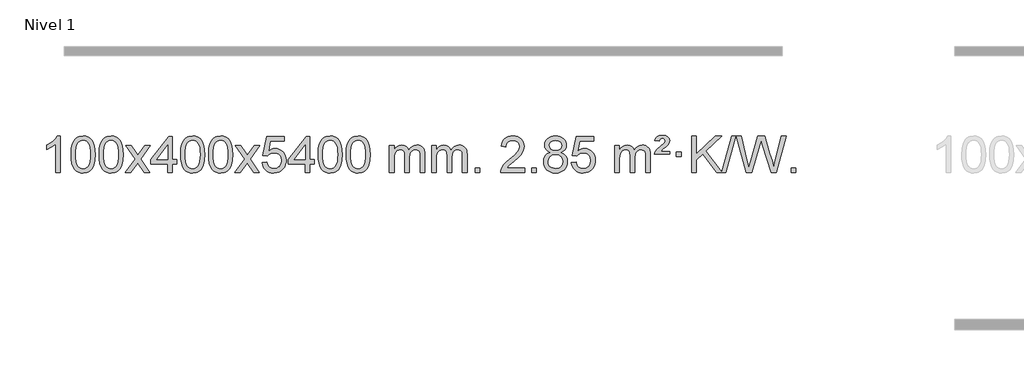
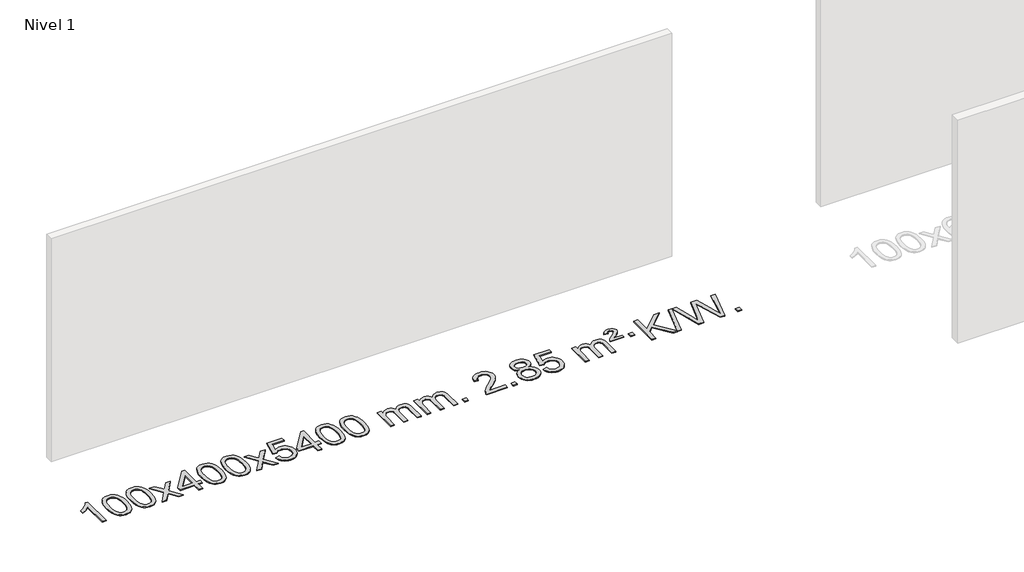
# One storey, part 2 of 12: 1 proxy.
"""IFC4 building model written with IfcOpenShell, lengths in millimetres."""

from ifc_helpers import new_model, si_unit, origin, origin_with_axes, place, context, project, spatial, polyline, outline, extrude, element, save

model = new_model("IFC4")

# Units and contexts
model_context = context("Model", 3, world=origin())
ifc_project = project(units=[si_unit("LENGTHUNIT", "METRE", prefix="MILLI")], contexts=[model_context])

# Site, building, storey
site = spatial("IfcSite", under=ifc_project)
building = spatial("IfcBuilding", under=site)
storey = spatial("IfcBuildingStorey", under=building, Name="Nivel 1", Elevation=0.0)

# Proxy
placement = place(None, origin())
element("IfcBuildingElementProxy", 1, Name="Texto de modelo 1", ObjectType="Texto de modelo 1", at=placement, inside=storey, context=model_context, shape_type="SweptSolid", body=[
    extrude(outline(polyline([(-11675.4615788, -9399.579453), (-11725.6897338, -9399.579453), (-11725.6897338, -9086.4382987), (-11746.6590076, -9103.3976587), (-11773.2691385, -9120.3324932), (-11826.146044, -9145.6918254), (-11826.146044, -9098.2105225), (-11786.6968314, -9076.7507395), (-11752.520594, -9051.219729), (-11725.5793692, -9024.0700378), (-11707.8351943, -8997.7542124), (-11675.4615788, -8997.7542124), (-11675.4615788, -9399.579453)])), origin_with_axes(), (0.0, 0.0, 1.0), 10.0),
    extrude(outline(polyline([(-11556.1697105, -9201.9041943), (-11552.4786278, -9137.5861588), (-11541.4053797, -9086.2911459), (-11523.0603309, -9047.2343407), (-11511.2022679, -9032.0009605), (-11497.5538459, -9019.6309284), (-11482.0690796, -9010.0598651), (-11464.7019837, -9003.2233914), (-11424.3208034, -8997.7542124), (-11393.3696649, -9000.991574), (-11365.6558879, -9010.7036586), (-11342.4793222, -9026.5103217), (-11325.1398175, -9048.0314184), (-11312.0432185, -9075.0830078), (-11301.5953698, -9107.4811488), (-11294.7527647, -9148.6226186), (-11292.4718963, -9201.9041943), (-11296.1261908, -9265.8543477), (-11307.0890743, -9317.0267333), (-11325.3237585, -9356.1203266), (-11337.1542303, -9371.3996922), (-11350.7934553, -9383.8341036), (-11366.2966157, -9393.4695462), (-11383.7188939, -9400.3520052), (-11424.3208034, -9405.8579724), (-11451.9855294, -9403.4667394), (-11476.5109958, -9396.2930405), (-11497.8972024, -9384.3368757), (-11516.1441494, -9367.5982449), (-11533.6553324, -9337.3399508), (-11546.1633202, -9299.6381776), (-11553.6681129, -9254.4929255), (-11556.1697105, -9201.9041943)]), holes=[polyline([(-11505.9415554, -9201.8060924), (-11504.4700274, -9245.4706195), (-11500.0554435, -9280.8148822), (-11492.6978036, -9307.8388804), (-11482.3971077, -9326.5426142), (-11469.9381708, -9339.2682656), (-11456.1058078, -9348.3580165), (-11440.9000186, -9353.8118671), (-11424.3208034, -9355.6298173), (-11407.7415881, -9353.8057357), (-11392.535799, -9348.3334911), (-11378.703436, -9339.2130833), (-11366.2444991, -9326.4445124), (-11355.9438032, -9307.7101217), (-11348.5861633, -9280.6922549), (-11344.1715794, -9245.3909118), (-11342.7000514, -9201.8060924), (-11344.1225284, -9159.2973278), (-11348.3899596, -9124.5753989), (-11355.5023448, -9097.6403055), (-11365.4596842, -9078.4920476), (-11377.7101546, -9065.1440625), (-11391.7019332, -9055.6097875), (-11407.4350198, -9049.8892225), (-11424.9094146, -9047.9823675), (-11441.4027907, -9049.6623619), (-11456.3510624, -9054.7023452), (-11469.7542298, -9063.1023175), (-11481.6122928, -9074.8622786), (-11492.2563452, -9095.708925), (-11499.8592397, -9123.8151094), (-11504.4209765, -9159.1808319), (-11505.9415554, -9201.8060924)])]), origin_with_axes(), (0.0, 0.0, 1.0), 10.0),
    extrude(outline(polyline([(-11248.5222606, -9201.9041943), (-11244.8311779, -9137.5861588), (-11233.7579299, -9086.2911459), (-11215.4128811, -9047.2343407), (-11203.5548181, -9032.0009605), (-11189.9063961, -9019.6309284), (-11174.4216298, -9010.0598651), (-11157.0545339, -9003.2233914), (-11116.6733536, -8997.7542124), (-11085.722215, -9000.991574), (-11058.0084381, -9010.7036586), (-11034.8318724, -9026.5103217), (-11017.4923677, -9048.0314184), (-11004.3957686, -9075.0830078), (-10993.94792, -9107.4811488), (-10987.1053149, -9148.6226186), (-10984.8244465, -9201.9041943), (-10988.478741, -9265.8543477), (-10999.4416244, -9317.0267333), (-11017.6763087, -9356.1203266), (-11029.5067805, -9371.3996922), (-11043.1460055, -9383.8341036), (-11058.6491659, -9393.4695462), (-11076.071444, -9400.3520052), (-11116.6733536, -9405.8579724), (-11144.3380796, -9403.4667394), (-11168.8635459, -9396.2930405), (-11190.2497526, -9384.3368757), (-11208.4966996, -9367.5982449), (-11226.0078825, -9337.3399508), (-11238.5158704, -9299.6381776), (-11246.0206631, -9254.4929255), (-11248.5222606, -9201.9041943)]), holes=[polyline([(-11198.2941056, -9201.8060924), (-11196.8225776, -9245.4706195), (-11192.4079936, -9280.8148822), (-11185.0503537, -9307.8388804), (-11174.7496579, -9326.5426142), (-11162.290721, -9339.2682656), (-11148.4583579, -9348.3580165), (-11133.2525688, -9353.8118671), (-11116.6733536, -9355.6298173), (-11100.0941383, -9353.8057357), (-11084.8883492, -9348.3334911), (-11071.0559862, -9339.2130833), (-11058.5970493, -9326.4445124), (-11048.2963534, -9307.7101217), (-11040.9387135, -9280.6922549), (-11036.5241295, -9245.3909118), (-11035.0526016, -9201.8060924), (-11036.4750786, -9159.2973278), (-11040.7425098, -9124.5753989), (-11047.854895, -9097.6403055), (-11057.8122343, -9078.4920476), (-11070.0627048, -9065.1440625), (-11084.0544833, -9055.6097875), (-11099.78757, -9049.8892225), (-11117.2619648, -9047.9823675), (-11133.7553409, -9049.6623619), (-11148.7036126, -9054.7023452), (-11162.10678, -9063.1023175), (-11173.9648429, -9074.8622786), (-11184.6088953, -9095.708925), (-11192.2117899, -9123.8151094), (-11196.7735266, -9159.1808319), (-11198.2941056, -9201.8060924)])]), origin_with_axes(), (0.0, 0.0, 1.0), 10.0),
    extrude(outline(polyline([(-10959.7103689, -9399.579453), (-10852.3869282, -9251.2494325), (-10953.4318496, -9104.4890419), (-10893.0011005, -9104.4890419), (-10844.2444734, -9175.122385), (-10821.4848406, -9208.4770192), (-10801.7663657, -9181.2047007), (-10746.2407099, -9104.4890419), (-10685.8099608, -9104.4890419), (-10791.9561791, -9251.2494325), (-10689.7340354, -9399.579453), (-10750.1647845, -9399.579453), (-10811.6746541, -9310.4048574), (-10822.9563686, -9294.1199477), (-10899.2796199, -9399.579453), (-10959.7103689, -9399.579453)])), origin_with_axes(), (0.0, 0.0, 1.0), 10.0),
    extrude(outline(polyline([(-10495.0999345, -9399.579453), (-10495.0999345, -9305.4016622), (-10677.1769967, -9305.4016622), (-10677.1769967, -9255.1735072), (-10482.5428957, -9004.0327318), (-10444.8717794, -9004.0327318), (-10444.8717794, -9255.1735072), (-10394.6436244, -9255.1735072), (-10394.6436244, -9305.4016622), (-10444.8717794, -9305.4016622), (-10444.8717794, -9399.579453), (-10495.0999345, -9399.579453)]), holes=[polyline([(-10495.0999345, -9255.1735072), (-10495.0999345, -9099.9763561), (-10615.3728215, -9255.1735072), (-10495.0999345, -9255.1735072)])]), origin_with_axes(), (0.0, 0.0, 1.0), 10.0),
    extrude(outline(polyline([(-10350.6939887, -9201.9041943), (-10347.002906, -9137.5861588), (-10335.9296579, -9086.2911459), (-10317.5846091, -9047.2343407), (-10305.7265461, -9032.0009605), (-10292.0781241, -9019.6309284), (-10276.5933578, -9010.0598651), (-10259.2262619, -9003.2233914), (-10218.8450816, -8997.7542124), (-10187.8939431, -9000.991574), (-10160.1801661, -9010.7036586), (-10137.0036004, -9026.5103217), (-10119.6640957, -9048.0314184), (-10106.5674967, -9075.0830078), (-10096.119648, -9107.4811488), (-10089.2770429, -9148.6226186), (-10086.9961745, -9201.9041943), (-10090.650469, -9265.8543477), (-10101.6133525, -9317.0267333), (-10119.8480367, -9356.1203266), (-10131.6785085, -9371.3996922), (-10145.3177335, -9383.8341036), (-10160.8208939, -9393.4695462), (-10178.2431721, -9400.3520052), (-10218.8450816, -9405.8579724), (-10246.5098076, -9403.4667394), (-10271.035274, -9396.2930405), (-10292.4214806, -9384.3368757), (-10310.6684276, -9367.5982449), (-10328.1796106, -9337.3399508), (-10340.6875984, -9299.6381776), (-10348.1923911, -9254.4929255), (-10350.6939887, -9201.9041943)]), holes=[polyline([(-10300.4658336, -9201.8060924), (-10298.9943056, -9245.4706195), (-10294.5797217, -9280.8148822), (-10287.2220818, -9307.8388804), (-10276.9213859, -9326.5426142), (-10264.462449, -9339.2682656), (-10250.630086, -9348.3580165), (-10235.4242968, -9353.8118671), (-10218.8450816, -9355.6298173), (-10202.2658663, -9353.8057357), (-10187.0600772, -9348.3334911), (-10173.2277142, -9339.2130833), (-10160.7687773, -9326.4445124), (-10150.4680814, -9307.7101217), (-10143.1104415, -9280.6922549), (-10138.6958576, -9245.3909118), (-10137.2243296, -9201.8060924), (-10138.6468066, -9159.2973278), (-10142.9142378, -9124.5753989), (-10150.026623, -9097.6403055), (-10159.9839624, -9078.4920476), (-10172.2344328, -9065.1440625), (-10186.2262114, -9055.6097875), (-10201.959298, -9049.8892225), (-10219.4336928, -9047.9823675), (-10235.9270689, -9049.6623619), (-10250.8753406, -9054.7023452), (-10264.278508, -9063.1023175), (-10276.136571, -9074.8622786), (-10286.7806234, -9095.708925), (-10294.3835179, -9123.8151094), (-10298.9452547, -9159.1808319), (-10300.4658336, -9201.8060924)])]), origin_with_axes(), (0.0, 0.0, 1.0), 10.0),
    extrude(outline(polyline([(-10043.0465388, -9201.9041943), (-10039.3554561, -9137.5861588), (-10028.2822081, -9086.2911459), (-10009.9371593, -9047.2343407), (-9998.0790963, -9032.0009605), (-9984.4306743, -9019.6309284), (-9968.945908, -9010.0598651), (-9951.5788121, -9003.2233914), (-9911.1976318, -8997.7542124), (-9880.2464932, -9000.991574), (-9852.5327163, -9010.7036586), (-9829.3561506, -9026.5103217), (-9812.0166459, -9048.0314184), (-9798.9200468, -9075.0830078), (-9788.4721982, -9107.4811488), (-9781.6295931, -9148.6226186), (-9779.3487247, -9201.9041943), (-9783.0030192, -9265.8543477), (-9793.9659026, -9317.0267333), (-9812.2005869, -9356.1203266), (-9824.0310587, -9371.3996922), (-9837.6702837, -9383.8341036), (-9853.1734441, -9393.4695462), (-9870.5957222, -9400.3520052), (-9911.1976318, -9405.8579724), (-9938.8623578, -9403.4667394), (-9963.3878241, -9396.2930405), (-9984.7740308, -9384.3368757), (-10003.0209778, -9367.5982449), (-10020.5321607, -9337.3399508), (-10033.0401486, -9299.6381776), (-10040.5449413, -9254.4929255), (-10043.0465388, -9201.9041943)]), holes=[polyline([(-9992.8183838, -9201.8060924), (-9991.3468558, -9245.4706195), (-9986.9322718, -9280.8148822), (-9979.5746319, -9307.8388804), (-9969.2739361, -9326.5426142), (-9956.8149992, -9339.2682656), (-9942.9826361, -9348.3580165), (-9927.776847, -9353.8118671), (-9911.1976318, -9355.6298173), (-9894.6184165, -9353.8057357), (-9879.4126274, -9348.3334911), (-9865.5802644, -9339.2130833), (-9853.1213275, -9326.4445124), (-9842.8206316, -9307.7101217), (-9835.4629917, -9280.6922549), (-9831.0484077, -9245.3909118), (-9829.5768798, -9201.8060924), (-9830.9993568, -9159.2973278), (-9835.266788, -9124.5753989), (-9842.3791732, -9097.6403055), (-9852.3365125, -9078.4920476), (-9864.586983, -9065.1440625), (-9878.5787615, -9055.6097875), (-9894.3118482, -9049.8892225), (-9911.786243, -9047.9823675), (-9928.2796191, -9049.6623619), (-9943.2278908, -9054.7023452), (-9956.6310582, -9063.1023175), (-9968.4891211, -9074.8622786), (-9979.1331735, -9095.708925), (-9986.7360681, -9123.8151094), (-9991.2978048, -9159.1808319), (-9992.8183838, -9201.8060924)])]), origin_with_axes(), (0.0, 0.0, 1.0), 10.0),
    extrude(outline(polyline([(-9754.2346472, -9399.579453), (-9646.9112064, -9251.2494325), (-9747.9561278, -9104.4890419), (-9687.5253787, -9104.4890419), (-9638.7687516, -9175.122385), (-9616.0091188, -9208.4770192), (-9596.2906439, -9181.2047007), (-9540.7649881, -9104.4890419), (-9480.334239, -9104.4890419), (-9586.4804574, -9251.2494325), (-9484.2583136, -9399.579453), (-9544.6890627, -9399.579453), (-9606.1989323, -9310.4048574), (-9617.4806468, -9294.1199477), (-9693.8038981, -9399.579453), (-9754.2346472, -9399.579453)])), origin_with_axes(), (0.0, 0.0, 1.0), 10.0),
    extrude(outline(polyline([(-9452.8657167, -9292.8446235), (-9402.6375616, -9286.5661041), (-9393.4159863, -9316.7201649), (-9377.3272804, -9338.3148381), (-9354.4450203, -9351.3010725), (-9324.8427824, -9355.6298173), (-9305.7129186, -9354.1245668), (-9288.8393978, -9349.6088153), (-9274.2222198, -9342.0825628), (-9261.8613848, -9331.5458094), (-9252.0328042, -9318.519721), (-9245.0123894, -9303.5254641), (-9239.3960576, -9267.6324441), (-9244.6567702, -9233.8363514), (-9251.2326608, -9219.9181493), (-9260.4389078, -9207.9865099), (-9272.3061678, -9198.4154467), (-9286.8650977, -9191.5789729), (-9324.0579675, -9186.1097939), (-9348.4240183, -9188.2925604), (-9368.1547559, -9194.8408599), (-9383.9123681, -9204.8717757), (-9396.3590422, -9217.5023908), (-9446.5871973, -9211.2238715), (-9402.6375616, -9004.0327318), (-9208.0034607, -9004.0327318), (-9208.0034607, -9054.2608869), (-9362.0233894, -9054.2608869), (-9383.5076979, -9164.919791), (-9365.7819171, -9152.2155994), (-9347.6269406, -9143.1411769), (-9329.0427685, -9137.6965234), (-9310.0294007, -9135.8816388), (-9285.5683137, -9138.1318504), (-9263.0999209, -9144.882485), (-9242.6242221, -9156.1335427), (-9224.1412176, -9171.8850234), (-9208.8403923, -9191.1743027), (-9197.9112313, -9213.038756), (-9191.3537348, -9237.4783832), (-9189.1679026, -9264.4931844), (-9191.1360712, -9290.5147042), (-9197.0405773, -9314.7213394), (-9206.8814206, -9337.1130902), (-9220.6586013, -9357.6899565), (-9241.5297732, -9378.7634634), (-9265.8835613, -9393.8159684), (-9293.7199656, -9402.8474714), (-9325.0389861, -9405.8579724), (-9350.9593384, -9403.9235262), (-9374.3719617, -9398.1201877), (-9395.276856, -9388.447957), (-9413.6740215, -9374.9068338), (-9428.9809782, -9358.1712688), (-9440.6152463, -9338.915712), (-9448.5768258, -9317.1401636), (-9452.8657167, -9292.8446235)])), origin_with_axes(), (0.0, 0.0, 1.0), 10.0),
    extrude(outline(polyline([(-8981.9767629, -9399.579453), (-8981.9767629, -9305.4016622), (-9164.053825, -9305.4016622), (-9164.053825, -9255.1735072), (-8969.4197241, -9004.0327318), (-8931.7486078, -9004.0327318), (-8931.7486078, -9255.1735072), (-8881.5204527, -9255.1735072), (-8881.5204527, -9305.4016622), (-8931.7486078, -9305.4016622), (-8931.7486078, -9399.579453), (-8981.9767629, -9399.579453)]), holes=[polyline([(-8981.9767629, -9255.1735072), (-8981.9767629, -9099.9763561), (-9102.2496498, -9255.1735072), (-8981.9767629, -9255.1735072)])]), origin_with_axes(), (0.0, 0.0, 1.0), 10.0),
    extrude(outline(polyline([(-8837.570817, -9201.9041943), (-8833.8797344, -9137.5861588), (-8822.8064863, -9086.2911459), (-8804.4614375, -9047.2343407), (-8792.6033745, -9032.0009605), (-8778.9549525, -9019.6309284), (-8763.4701862, -9010.0598651), (-8746.1030903, -9003.2233914), (-8705.72191, -8997.7542124), (-8674.7707714, -9000.991574), (-8647.0569945, -9010.7036586), (-8623.8804288, -9026.5103217), (-8606.5409241, -9048.0314184), (-8593.444325, -9075.0830078), (-8582.9964764, -9107.4811488), (-8576.1538713, -9148.6226186), (-8573.8730029, -9201.9041943), (-8577.5272974, -9265.8543477), (-8588.4901808, -9317.0267333), (-8606.7248651, -9356.1203266), (-8618.5553369, -9371.3996922), (-8632.1945619, -9383.8341036), (-8647.6977223, -9393.4695462), (-8665.1200004, -9400.3520052), (-8705.72191, -9405.8579724), (-8733.386636, -9403.4667394), (-8757.9121024, -9396.2930405), (-8779.298309, -9384.3368757), (-8797.545256, -9367.5982449), (-8815.0564389, -9337.3399508), (-8827.5644268, -9299.6381776), (-8835.0692195, -9254.4929255), (-8837.570817, -9201.9041943)]), holes=[polyline([(-8787.342662, -9201.8060924), (-8785.871134, -9245.4706195), (-8781.45655, -9280.8148822), (-8774.0989101, -9307.8388804), (-8763.7982143, -9326.5426142), (-8751.3392774, -9339.2682656), (-8737.5069144, -9348.3580165), (-8722.3011252, -9353.8118671), (-8705.72191, -9355.6298173), (-8689.1426947, -9353.8057357), (-8673.9369056, -9348.3334911), (-8660.1045426, -9339.2130833), (-8647.6456057, -9326.4445124), (-8637.3449098, -9307.7101217), (-8629.9872699, -9280.6922549), (-8625.572686, -9245.3909118), (-8624.101158, -9201.8060924), (-8625.523635, -9159.2973278), (-8629.7910662, -9124.5753989), (-8636.9034514, -9097.6403055), (-8646.8607907, -9078.4920476), (-8659.1112612, -9065.1440625), (-8673.1030397, -9055.6097875), (-8688.8361264, -9049.8892225), (-8706.3105212, -9047.9823675), (-8722.8038973, -9049.6623619), (-8737.752169, -9054.7023452), (-8751.1553364, -9063.1023175), (-8763.0133993, -9074.8622786), (-8773.6574517, -9095.708925), (-8781.2603463, -9123.8151094), (-8785.8220831, -9159.1808319), (-8787.342662, -9201.8060924)])]), origin_with_axes(), (0.0, 0.0, 1.0), 10.0),
    extrude(outline(polyline([(-8529.9233672, -9201.9041943), (-8526.2322845, -9137.5861588), (-8515.1590365, -9086.2911459), (-8496.8139876, -9047.2343407), (-8484.9559247, -9032.0009605), (-8471.3075026, -9019.6309284), (-8455.8227363, -9010.0598651), (-8438.4556405, -9003.2233914), (-8398.0744601, -8997.7542124), (-8367.1233216, -9000.991574), (-8339.4095446, -9010.7036586), (-8316.2329789, -9026.5103217), (-8298.8934742, -9048.0314184), (-8285.7968752, -9075.0830078), (-8275.3490265, -9107.4811488), (-8268.5064214, -9148.6226186), (-8266.2255531, -9201.9041943), (-8269.8798475, -9265.8543477), (-8280.842731, -9317.0267333), (-8299.0774152, -9356.1203266), (-8310.9078871, -9371.3996922), (-8324.547112, -9383.8341036), (-8340.0502724, -9393.4695462), (-8357.4725506, -9400.3520052), (-8398.0744601, -9405.8579724), (-8425.7391862, -9403.4667394), (-8450.2646525, -9396.2930405), (-8471.6508592, -9384.3368757), (-8489.8978061, -9367.5982449), (-8507.4089891, -9337.3399508), (-8519.9169769, -9299.6381776), (-8527.4217696, -9254.4929255), (-8529.9233672, -9201.9041943)]), holes=[polyline([(-8479.6952121, -9201.8060924), (-8478.2236842, -9245.4706195), (-8473.8091002, -9280.8148822), (-8466.4514603, -9307.8388804), (-8456.1507644, -9326.5426142), (-8443.6918275, -9339.2682656), (-8429.8594645, -9348.3580165), (-8414.6536754, -9353.8118671), (-8398.0744601, -9355.6298173), (-8381.4952449, -9353.8057357), (-8366.2894558, -9348.3334911), (-8352.4570927, -9339.2130833), (-8339.9981558, -9326.4445124), (-8329.69746, -9307.7101217), (-8322.3398201, -9280.6922549), (-8317.9252361, -9245.3909118), (-8316.4537081, -9201.8060924), (-8317.8761852, -9159.2973278), (-8322.1436163, -9124.5753989), (-8329.2560016, -9097.6403055), (-8339.2133409, -9078.4920476), (-8351.4638113, -9065.1440625), (-8365.4555899, -9055.6097875), (-8381.1886766, -9049.8892225), (-8398.6630713, -9047.9823675), (-8415.1564474, -9049.6623619), (-8430.1047192, -9054.7023452), (-8443.5078865, -9063.1023175), (-8455.3659495, -9074.8622786), (-8466.0100019, -9095.708925), (-8473.6128965, -9123.8151094), (-8478.1746332, -9159.1808319), (-8479.6952121, -9201.8060924)])]), origin_with_axes(), (0.0, 0.0, 1.0), 10.0),
    extrude(outline(polyline([(-8052.755894, -9399.579453), (-8052.755894, -9104.4890419), (-8002.5277389, -9104.4890419), (-8002.5277389, -9153.0494653), (-7987.4200517, -9130.7435537), (-7967.9958823, -9113.2691589), (-7944.9174185, -9101.9751816), (-7918.8468478, -9098.2105225), (-7890.9123416, -9102.048758), (-7868.5205908, -9113.5634645), (-7851.7942228, -9131.9943524), (-7840.8558648, -9156.5811324), (-7822.5476041, -9131.0439906), (-7801.6641696, -9112.803175), (-7778.205561, -9101.8586857), (-7752.1717785, -9098.2105225), (-7732.0639617, -9099.7280358), (-7714.414823, -9104.2805755), (-7699.2243623, -9111.8681416), (-7686.4925796, -9122.4907342), (-7676.4279413, -9136.2709806), (-7669.238914, -9153.3315082), (-7664.9254976, -9173.6723168), (-7663.4876922, -9197.2934066), (-7663.4876922, -9399.579453), (-7713.7158472, -9399.579453), (-7713.7158472, -9218.875817), (-7714.8808069, -9193.8230531), (-7718.3756858, -9176.9372695), (-7724.9239854, -9165.3735121), (-7735.2492067, -9156.2868268), (-7748.5297467, -9150.4007149), (-7763.9440023, -9148.4386776), (-7791.1550072, -9153.4663982), (-7813.3382915, -9168.54956), (-7821.9436645, -9180.1194488), (-7828.0903595, -9194.7182326), (-7833.0077155, -9233.0024856), (-7833.0077155, -9399.579453), (-7883.2358706, -9399.579453), (-7883.2358706, -9213.2840106), (-7886.1421384, -9184.8835206), (-7894.8609417, -9164.6254854), (-7910.2016209, -9152.4853796), (-7932.9735164, -9148.4386776), (-7952.3241093, -9151.1364789), (-7970.1541233, -9159.2298828), (-7984.8694032, -9172.5226856), (-7994.8757934, -9190.8186835), (-8000.6147525, -9216.2025411), (-8002.5277389, -9250.7589232), (-8002.5277389, -9399.579453), (-8052.755894, -9399.579453)])), origin_with_axes(), (0.0, 0.0, 1.0), 10.0),
    extrude(outline(polyline([(-7588.1454596, -9399.579453), (-7588.1454596, -9104.4890419), (-7537.9173045, -9104.4890419), (-7537.9173045, -9153.0494653), (-7522.8096172, -9130.7435537), (-7503.3854479, -9113.2691589), (-7480.306984, -9101.9751816), (-7454.2364133, -9098.2105225), (-7426.3019071, -9102.048758), (-7403.9101564, -9113.5634645), (-7387.1837883, -9131.9943524), (-7376.2454303, -9156.5811324), (-7357.9371697, -9131.0439906), (-7337.0537351, -9112.803175), (-7313.5951266, -9101.8586857), (-7287.561344, -9098.2105225), (-7267.4535273, -9099.7280358), (-7249.8043886, -9104.2805755), (-7234.6139279, -9111.8681416), (-7221.8821452, -9122.4907342), (-7211.8175069, -9136.2709806), (-7204.6284796, -9153.3315082), (-7200.3150632, -9173.6723168), (-7198.8772577, -9197.2934066), (-7198.8772577, -9399.579453), (-7249.1054128, -9399.579453), (-7249.1054128, -9218.875817), (-7250.2703724, -9193.8230531), (-7253.7652514, -9176.9372695), (-7260.3135509, -9165.3735121), (-7270.6387722, -9156.2868268), (-7283.9193123, -9150.4007149), (-7299.3335679, -9148.4386776), (-7326.5445728, -9153.4663982), (-7348.7278571, -9168.54956), (-7357.3332301, -9180.1194488), (-7363.4799251, -9194.7182326), (-7368.3972811, -9233.0024856), (-7368.3972811, -9399.579453), (-7418.6254362, -9399.579453), (-7418.6254362, -9213.2840106), (-7421.5317039, -9184.8835206), (-7430.2505072, -9164.6254854), (-7445.5911864, -9152.4853796), (-7468.3630819, -9148.4386776), (-7487.7136749, -9151.1364789), (-7505.5436889, -9159.2298828), (-7520.2589687, -9172.5226856), (-7530.265359, -9190.8186835), (-7536.0043181, -9216.2025411), (-7537.9173045, -9250.7589232), (-7537.9173045, -9399.579453), (-7588.1454596, -9399.579453)])), origin_with_axes(), (0.0, 0.0, 1.0), 10.0),
    extrude(outline(polyline([(-7110.9779863, -9399.579453), (-7110.9779863, -9349.3512979), (-7060.7498313, -9349.3512979), (-7060.7498313, -9399.579453), (-7110.9779863, -9399.579453)])), origin_with_axes(), (0.0, 0.0, 1.0), 10.0),
    extrude(outline(polyline([(-6564.7467999, -9349.3512979), (-6564.7467999, -9399.579453), (-6828.444614, -9399.579453), (-6827.3409681, -9381.8965918), (-6823.0490115, -9364.9494945), (-6810.6636509, -9337.8856424), (-6792.5393313, -9311.6311307), (-6766.3216078, -9284.1503456), (-6729.6560356, -9253.4076736), (-6675.454755, -9205.2641831), (-6642.9339866, -9169.7267824), (-6626.6736024, -9140.884834), (-6621.2534744, -9112.8277005), (-6626.3670341, -9087.6768347), (-6641.7077133, -9066.7688747), (-6665.2889492, -9052.6789943), (-6695.124179, -9047.9823675), (-6726.4554623, -9052.5686297), (-6750.7969876, -9066.3274163), (-6766.5055488, -9088.1796068), (-6771.9379396, -9117.0460807), (-6822.1660947, -9110.7675613), (-6817.8465469, -9084.838012), (-6809.9892006, -9062.1826125), (-6798.5940558, -9042.8013627), (-6783.6611125, -9026.6942627), (-6765.5337272, -9014.0329907), (-6744.5552564, -9004.989225), (-6720.7257002, -8999.5629655), (-6694.0450585, -8997.7542124), (-6667.1252935, -8999.7653006), (-6643.1669785, -9005.7985654), (-6622.1701137, -9015.8540066), (-6604.1346989, -9029.9316242), (-6589.6493453, -9046.9890861), (-6579.3026642, -9065.9840598), (-6573.0946555, -9086.9165453), (-6571.0253193, -9109.7865427), (-6573.2571367, -9133.8092369), (-6579.952589, -9157.4149983), (-6591.8351775, -9181.4254299), (-6609.6284033, -9206.6621347), (-6637.9921051, -9236.7916701), (-6681.5861216, -9275.4805933), (-6739.3681203, -9323.795762), (-6762.0296512, -9349.3512979), (-6564.7467999, -9349.3512979)])), origin_with_axes(), (0.0, 0.0, 1.0), 10.0),
    extrude(outline(polyline([(-6489.4045673, -9399.579453), (-6489.4045673, -9349.3512979), (-6439.1764122, -9349.3512979), (-6439.1764122, -9399.579453), (-6489.4045673, -9399.579453)])), origin_with_axes(), (0.0, 0.0, 1.0), 10.0),
    extrude(outline(polyline([(-6284.3716686, -9178.2616447), (-6311.2638425, -9165.0178929), (-6330.1361888, -9147.0652515), (-6341.2830133, -9124.7716026), (-6344.9986215, -9098.5048281), (-6342.9752705, -9078.0199324), (-6336.9052176, -9059.2395565), (-6326.7884627, -9042.1637006), (-6312.6250059, -9026.7923645), (-6295.0954288, -9014.088173), (-6274.8803132, -9005.0137504), (-6251.979659, -8999.5690969), (-6226.3934662, -8997.7542124), (-6200.6846461, -8999.6120165), (-6177.6123136, -9005.1854287), (-6157.1764688, -9014.4744491), (-6139.3771116, -9027.4790776), (-6124.9561374, -9043.1508506), (-6114.6554415, -9060.4413044), (-6108.475024, -9079.3504389), (-6106.4148848, -9099.8782543), (-6110.0814421, -9125.2989001), (-6121.0811137, -9147.2124043), (-6139.5365271, -9165.0546811), (-6165.5703097, -9178.2616447), (-6134.6559593, -9194.1909351), (-6112.153844, -9217.6495436), (-6098.4318456, -9247.5092989), (-6093.8578461, -9282.6420295), (-6096.1264517, -9307.6947933), (-6102.9322686, -9330.6628926), (-6114.2752968, -9351.5463272), (-6130.1555363, -9370.3450971), (-6149.7391211, -9385.88198), (-6172.1921856, -9396.9797536), (-6197.5147296, -9403.6384177), (-6225.7067531, -9405.8579724), (-6253.8987767, -9403.6292206), (-6279.2213207, -9396.9429654), (-6301.6743852, -9385.7992066), (-6321.25797, -9370.1979443), (-6337.1382095, -9351.26735), (-6348.4812377, -9330.135595), (-6355.2870546, -9306.8026795), (-6357.5556602, -9281.2686033), (-6352.7977197, -9244.7747094), (-6338.5238983, -9214.7555386), (-6315.46996, -9192.2411605), (-6284.3716686, -9178.2616447)]), holes=[polyline([(-6294.7704664, -9099.9763561), (-6290.3190942, -9121.902123), (-6276.9649778, -9139.413306), (-6255.1005246, -9150.8912243), (-6225.118142, -9154.717197), (-6195.8347351, -9150.9157497), (-6174.3013757, -9139.5114079), (-6161.0576239, -9122.5888361), (-6156.6430399, -9102.232699), (-6161.2047767, -9081.1040098), (-6174.8899869, -9063.629615), (-6196.7176519, -9051.8941794), (-6225.7067531, -9047.9823675), (-6254.8797954, -9051.8083402), (-6276.6706722, -9063.2862585), (-6290.2455178, -9080.1107284), (-6294.7704664, -9099.9763561)]), polyline([(-6307.3275051, -9279.5027698), (-6305.2305778, -9298.7184726), (-6298.9397957, -9317.3210389), (-6287.3269873, -9333.5446349), (-6269.2639814, -9345.623427), (-6247.6325201, -9353.1282197), (-6225.3143457, -9355.6298173), (-6191.1258456, -9350.3691048), (-6177.2321689, -9343.7932141), (-6165.4722078, -9334.5869672), (-6149.4325528, -9310.6869002), (-6144.0860012, -9281.0723996), (-6149.6042311, -9250.9551269), (-6166.1589209, -9226.5277625), (-6178.237713, -9217.0854579), (-6192.4011699, -9210.3409547), (-6226.9820774, -9204.9453521), (-6260.6923309, -9210.2673783), (-6274.4296577, -9216.919911), (-6286.0884513, -9226.2334569), (-6302.0177417, -9250.1948375), (-6307.3275051, -9279.5027698)])]), origin_with_axes(), (0.0, 0.0, 1.0), 10.0),
    extrude(outline(polyline([(-6049.9082104, -9292.8446235), (-5999.6800553, -9286.5661041), (-5990.45848, -9316.7201649), (-5974.369774, -9338.3148381), (-5951.4875139, -9351.3010725), (-5921.8852761, -9355.6298173), (-5902.7554123, -9354.1245668), (-5885.8818915, -9349.6088153), (-5871.2647135, -9342.0825628), (-5858.9038785, -9331.5458094), (-5849.0752979, -9318.519721), (-5842.0548831, -9303.5254641), (-5836.4385513, -9267.6324441), (-5841.6992639, -9233.8363514), (-5848.2751545, -9219.9181493), (-5857.4814014, -9207.9865099), (-5869.3486615, -9198.4154467), (-5883.9075914, -9191.5789729), (-5921.1004611, -9186.1097939), (-5945.466512, -9188.2925604), (-5965.1972496, -9194.8408599), (-5980.9548618, -9204.8717757), (-5993.4015359, -9217.5023908), (-6043.629691, -9211.2238715), (-5999.6800553, -9004.0327318), (-5805.0459544, -9004.0327318), (-5805.0459544, -9054.2608869), (-5959.065883, -9054.2608869), (-5980.5501916, -9164.919791), (-5962.8244108, -9152.2155994), (-5944.6694343, -9143.1411769), (-5926.0852622, -9137.6965234), (-5907.0718944, -9135.8816388), (-5882.6108074, -9138.1318504), (-5860.1424145, -9144.882485), (-5839.6667158, -9156.1335427), (-5821.1837113, -9171.8850234), (-5805.8828859, -9191.1743027), (-5794.953725, -9213.038756), (-5788.3962284, -9237.4783832), (-5786.2103962, -9264.4931844), (-5788.1785649, -9290.5147042), (-5794.0830709, -9314.7213394), (-5803.9239143, -9337.1130902), (-5817.701095, -9357.6899565), (-5838.5722669, -9378.7634634), (-5862.926055, -9393.8159684), (-5890.7624593, -9402.8474714), (-5922.0814798, -9405.8579724), (-5948.001832, -9403.9235262), (-5971.4144553, -9398.1201877), (-5992.3193497, -9388.447957), (-6010.7165152, -9374.9068338), (-6026.0234719, -9358.1712688), (-6037.6577399, -9338.915712), (-6045.6193195, -9317.1401636), (-6049.9082104, -9292.8446235)])), origin_with_axes(), (0.0, 0.0, 1.0), 10.0),
    extrude(outline(polyline([(-5572.7407372, -9399.579453), (-5572.7407372, -9104.4890419), (-5522.5125821, -9104.4890419), (-5522.5125821, -9153.0494653), (-5507.4048948, -9130.7435537), (-5487.9807255, -9113.2691589), (-5464.9022617, -9101.9751816), (-5438.8316909, -9098.2105225), (-5410.8971848, -9102.048758), (-5388.505434, -9113.5634645), (-5371.7790659, -9131.9943524), (-5360.840708, -9156.5811324), (-5342.5324473, -9131.0439906), (-5321.6490127, -9112.803175), (-5298.1904042, -9101.8586857), (-5272.1566217, -9098.2105225), (-5252.0488049, -9099.7280358), (-5234.3996662, -9104.2805755), (-5219.2092055, -9111.8681416), (-5206.4774228, -9122.4907342), (-5196.4127845, -9136.2709806), (-5189.2237572, -9153.3315082), (-5184.9103408, -9173.6723168), (-5183.4725353, -9197.2934066), (-5183.4725353, -9399.579453), (-5233.7006904, -9399.579453), (-5233.7006904, -9218.875817), (-5234.8656501, -9193.8230531), (-5238.360529, -9176.9372695), (-5244.9088285, -9165.3735121), (-5255.2340499, -9156.2868268), (-5268.5145899, -9150.4007149), (-5283.9288455, -9148.4386776), (-5311.1398504, -9153.4663982), (-5333.3231347, -9168.54956), (-5341.9285077, -9180.1194488), (-5348.0752027, -9194.7182326), (-5352.9925587, -9233.0024856), (-5352.9925587, -9399.579453), (-5403.2207138, -9399.579453), (-5403.2207138, -9213.2840106), (-5406.1269816, -9184.8835206), (-5414.8457848, -9164.6254854), (-5430.186464, -9152.4853796), (-5452.9583595, -9148.4386776), (-5472.3089525, -9151.1364789), (-5490.1389665, -9159.2298828), (-5504.8542463, -9172.5226856), (-5514.8606366, -9190.8186835), (-5520.5995957, -9216.2025411), (-5522.5125821, -9250.7589232), (-5522.5125821, -9399.579453), (-5572.7407372, -9399.579453)])), origin_with_axes(), (0.0, 0.0, 1.0), 10.0),
    extrude(outline(polyline([(-5139.5228997, -9198.6668327), (-5135.6969269, -9182.8479069), (-5127.3582683, -9166.9799302), (-5105.8494344, -9141.8413272), (-5073.8927517, -9114.1030247), (-5029.7469123, -9076.726214), (-5022.6100016, -9065.1992448), (-5020.2310314, -9053.3779701), (-5022.1194923, -9041.2869152), (-5027.784875, -9031.5012541), (-5037.1536031, -9025.026531), (-5050.1521003, -9022.8682899), (-5062.5865117, -9024.4869707), (-5071.4402051, -9029.343013), (-5077.8658773, -9038.8098431), (-5083.0162252, -9054.2608869), (-5133.2443803, -9047.9823675), (-5122.4041241, -9022.7701881), (-5105.775858, -9005.2099542), (-5082.0106811, -8994.9092583), (-5049.7596928, -8991.475693), (-5013.9770374, -8995.6082341), (-4989.2308419, -9008.0058573), (-4974.8098677, -9026.3386434), (-4970.0028763, -9048.2766731), (-4974.0986292, -9071.1834586), (-4986.3858878, -9092.8149199), (-5006.9137031, -9112.6314968), (-5043.3830716, -9140.6886303), (-5068.9876584, -9167.2742358), (-4970.0028763, -9167.2742358), (-4970.0028763, -9198.6668327), (-5139.5228997, -9198.6668327)])), origin_with_axes(), (0.0, 0.0, 1.0), 10.0),
    extrude(outline(polyline([(-4894.6606437, -9223.7809102), (-4894.6606437, -9173.5527552), (-4844.4324886, -9173.5527552), (-4844.4324886, -9223.7809102), (-4894.6606437, -9223.7809102)])), origin_with_axes(), (0.0, 0.0, 1.0), 10.0),
    extrude(outline(polyline([(-4453.7908606, -9399.579453), (-4607.2221781, -9196.9009991), (-4674.9124652, -9261.4520265), (-4674.9124652, -9399.579453), (-4725.1406203, -9399.579453), (-4725.1406203, -8997.7542124), (-4674.9124652, -8997.7542124), (-4674.9124652, -9194.4484525), (-4468.8985479, -8997.7542124), (-4398.6576123, -8997.7542124), (-4571.611201, -9162.9577537), (-4396.9575911, -9393.5349332), (-4285.6442634, -8997.7542124), (-4240.3212016, -8997.7542124), (-4353.3345505, -9399.579453), (-4392.3790929, -9399.579453), (-4398.6576123, -9399.579453), (-4453.7908606, -9399.579453)])), origin_with_axes(), (0.0, 0.0, 1.0), 10.0),
    extrude(outline(polyline([(-4125.8363247, -9399.579453), (-4235.4161083, -8997.7542124), (-4183.6183234, -8997.7542124), (-4120.0483146, -9261.844434), (-4100.4279415, -9343.3670841), (-4079.4341424, -9271.2622131), (-3999.7754277, -8997.7542124), (-3925.1199081, -8997.7542124), (-3867.2398075, -9196.0180823), (-3842.4445611, -9269.5944814), (-3824.1730886, -9343.3670841), (-3805.1413268, -9264.1988788), (-3740.9827068, -8997.7542124), (-3689.1849219, -8997.7542124), (-3798.8628074, -9399.579453), (-3852.5245277, -9399.579453), (-3948.8605595, -9089.5775584), (-3962.3005151, -9046.3146358), (-3977.4082024, -9098.4067263), (-4065.2093719, -9399.579453), (-4125.8363247, -9399.579453)])), origin_with_axes(), (0.0, 0.0, 1.0), 10.0),
    extrude(outline(polyline([(-3632.6782474, -9399.579453), (-3632.6782474, -9349.3512979), (-3582.4500923, -9349.3512979), (-3582.4500923, -9399.579453), (-3632.6782474, -9399.579453)])), origin_with_axes(), (0.0, 0.0, 1.0), 10.0),
])

save(model, "model.ifc")
